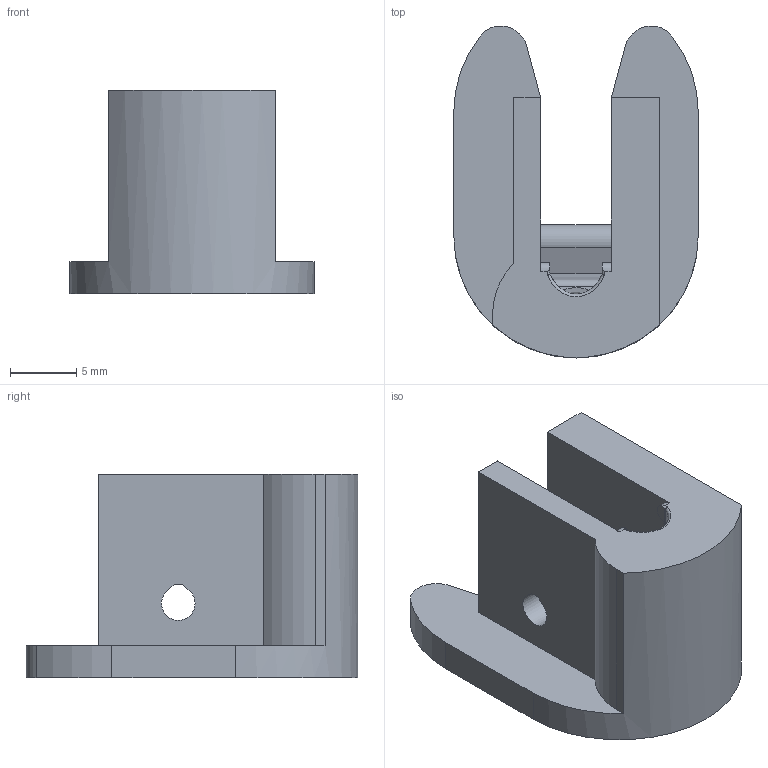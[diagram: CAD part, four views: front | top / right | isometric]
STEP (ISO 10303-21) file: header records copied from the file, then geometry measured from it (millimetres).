
FILE_DESCRIPTION(/* description */ ('STEP AP242','CAx-IF Rec.Pracs.---Representation and Presentation of Product Manufacturing Information (PMI)---4.0---2014-10-13','CAx-IF Rec.Pracs.---3D Tessellated Geometry---0.4---2014-09-14','2;1'),/* implementation_level */ '2;1');
FILE_NAME(/* name */ '61ff069123e0087fa9c7d278',/* time_stamp */ '2022-02-05T23:21:53+00:00',/* author */ (''),/* organization */ (''),/* preprocessor_version */ 'ST-DEVELOPER v18.101',/* originating_system */ ' ',/* authorisation */ ' ');
FILE_SCHEMA (('AP242_MANAGED_MODEL_BASED_3D_ENGINEERING_MIM_LF { 1 0 10303 442 1 1 4 }'));
Length unit declared in the file: metre
Products named in the file (1): Block
Bounding box: 18.41 x 25.01 x 15.37 mm (x, y, z)
Volume: 2462 mm3; surface area: 2121.2 mm2
Topology: 1 solids, 1 shells, 51 faces, 145 edges, 96 vertices
Faces by surface type: plane 27, cylinder 17, bspline 4, torus 3
Entity records: 1874 total; most frequent: CARTESIAN_POINT 534, ORIENTED_EDGE 288, DIRECTION 260, EDGE_CURVE 144, VERTEX_POINT 96, AXIS2_PLACEMENT_3D 90, LINE 80, VECTOR 80
